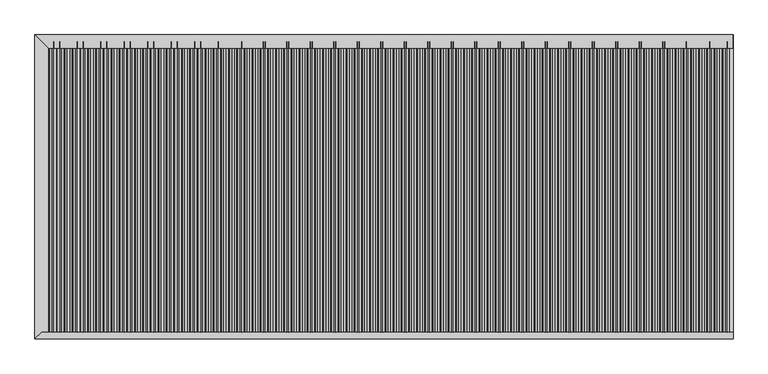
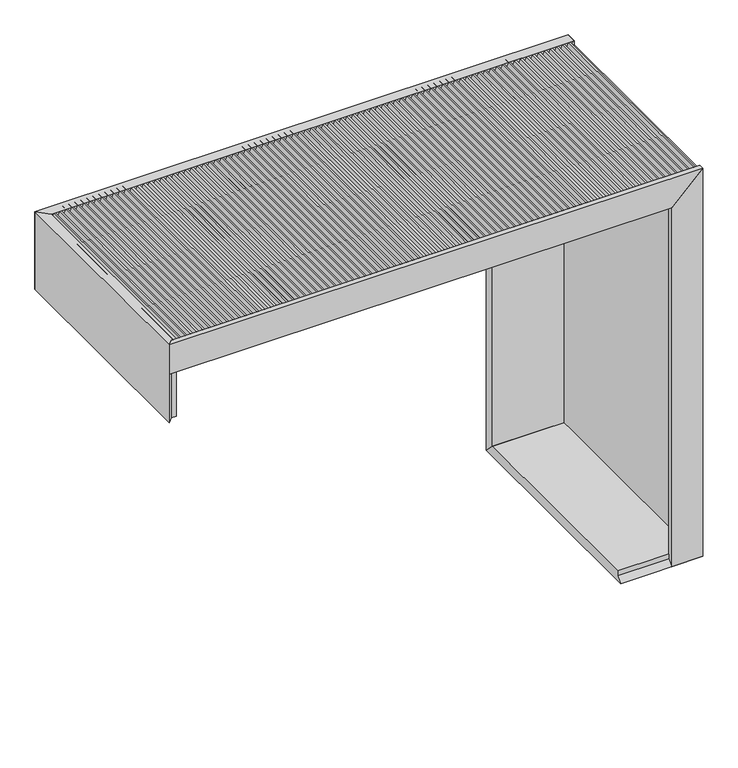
"""IFC4 building model written with IfcOpenShell, lengths in millimetres: proxy geometry, SALUTE^ADMIN 4_60x78 BATTEN L-SHAPED TRANS-SOLID ASSEMBLY."""

from ifc_helpers import new_model, si_unit, frame, origin, place, context, project, spatial, polyline, outline, extrude, faceted_brep, source, transform, mapped, element, save


def generic_models_9445e358(model_context):
    return source(origin(), model_context, "Body", "SolidModel", [
        extrude(outline(polyline([(723.9, -957.6724137), (723.9, 947.3275863), (742.95, 966.3775863), (742.95, -957.6724137), (723.9, -957.6724137)])), frame((0.0, -416.5070703, 0.0), z_axis=(0.0, 1.0, 0.0), x_axis=(0.0, 0.0, 1.0)), (0.0, 0.0, 1.0), 806.45),
        faceted_brep([(985.4275863, 389.9429297, -723.9), (985.4275863, 389.9429297, 762.0), (680.6275863, 389.9429297, 457.2), (680.6275863, 389.9429297, -723.9), (985.4275863, 428.0429297, -762.0), (985.4275863, 428.0429297, 762.0), (680.6275863, 428.0429297, 457.2), (680.6275863, 428.0429297, -762.0)], [[[0, 1, 2, 3]], [[1, 0, 4, 5]], [[2, 1, 5, 6]], [[0, 3, 7, 4]], [[7, 3, 2, 6]], [[6, 5, 4, 7]]]),
        extrude(outline(polyline([(428.0429297, -762.0), (-435.5570703, -762.0), (-416.5070703, -742.95), (-416.5070703, -723.9), (389.9429297, -723.9), (428.0429297, -762.0)])), frame((680.6275863, 0.0, 0.0), z_axis=(1.0, 0.0, 0.0), x_axis=(0.0, 1.0, 0.0)), (0.0, 0.0, 1.0), 304.8),
        faceted_brep([(871.1275863, -435.5570703, 647.7), (985.4275863, -435.5570703, 762.0), (-995.7724137, -435.5570703, 762.0), (-995.7724137, -435.5570703, 647.7), (985.4275863, -416.5070703, 762.0), (-976.7224137, -416.5070703, 762.0), (871.1275863, -416.5070703, 647.7), (-976.7224137, -416.5070703, 647.7)], [[[0, 1, 2, 3]], [[1, 4, 5, 2]], [[4, 6, 7, 5]], [[6, 0, 3, 7]], [[2, 5, 7, 3]], [[4, 1, 0, 6]]]),
        faceted_brep([(871.1275863, -435.5570703, 647.7), (985.4275863, -435.5570703, 762.0), (985.4275863, -416.5070703, 762.0), (871.1275863, -416.5070703, 647.7), (871.1275863, -416.5070703, -742.95), (871.1275863, -435.5570703, -762.0), (985.4275863, -416.5070703, -742.95), (985.4275863, -435.5570703, -762.0)], [[[0, 1, 2, 3]], [[0, 3, 4, 5]], [[3, 2, 6, 4]], [[1, 0, 5, 7]], [[7, 6, 2, 1]], [[5, 4, 6, 7]]]),
        extrude(outline(polyline([(-995.7724137, -435.5570703), (-995.7724137, 428.0429297), (-957.6724137, 389.9429297), (-957.6724137, -416.5070703), (-976.7224137, -416.5070703), (-995.7724137, -435.5570703)])), frame((0.0, 0.0, 457.2), z_axis=(0.0, 0.0, 1.0), x_axis=(1.0, 0.0, 0.0)), (0.0, 0.0, 1.0), 304.8),
        faceted_brep([(-957.6724137, 389.9429297, 762.0), (985.4275863, 389.9429297, 762.0), (985.4275863, 428.0429297, 762.0), (-995.7724137, 428.0429297, 762.0), (-957.6724137, 389.9429297, 457.2), (680.6275863, 389.9429297, 457.2), (680.6275863, 428.0429297, 457.2), (-995.7724137, 428.0429297, 457.2)], [[[0, 1, 2, 3]], [[1, 0, 4, 5]], [[2, 1, 5, 6]], [[0, 3, 7, 4]], [[4, 7, 6, 5]], [[2, 6, 7, 3]]]),
        extrude(outline(polyline([(-723.9, 966.3775863), (742.95, 966.3775863), (723.9, 947.3275863), (-723.9, 947.3275863), (-723.9, 966.3775863)])), frame((0.0, -416.5070703, 0.0), z_axis=(0.0, 1.0, 0.0), x_axis=(0.0, 0.0, 1.0)), (0.0, 0.0, 1.0), 806.45),
        extrude(outline(polyline([(751.4166667, 974.844253), (742.95, 966.3775863), (-742.95, 966.3775863), (-742.95, 985.4275863), (-736.6, 972.7275863), (-733.425, 972.7275863), (-727.075, 985.4275863), (-720.725, 985.4275863), (-714.375, 972.7275863), (-711.2, 972.7275863), (-704.85, 985.4275863), (-698.5, 985.4275863), (-692.15, 972.7275863), (-688.975, 972.7275863), (-682.625, 985.4275863), (-676.275, 985.4275863), (-669.925, 972.7275863), (-666.75, 972.7275863), (-660.4, 985.4275863), (-654.05, 985.4275863), (-647.7, 972.7275863), (-644.525, 972.7275863), (-638.175, 985.4275863), (-631.825, 985.4275863), (-625.475, 972.7275863), (-622.3, 972.7275863), (-615.95, 985.4275863), (-609.6, 985.4275863), (-603.25, 972.7275863), (-600.075, 972.7275863), (-593.725, 985.4275863), (-587.375, 985.4275863), (-581.025, 972.7275863), (-577.85, 972.7275863), (-571.5, 985.4275863), (-565.15, 985.4275863), (-558.8, 972.7275863), (-555.625, 972.7275863), (-549.275, 985.4275863), (-542.925, 985.4275863), (-536.575, 972.7275863), (-533.4, 972.7275863), (-527.05, 985.4275863), (-520.7, 985.4275863), (-514.35, 972.7275863), (-511.175, 972.7275863), (-504.825, 985.4275863), (-498.475, 985.4275863), (-492.125, 972.7275863), (-488.95, 972.7275863), (-482.6, 985.4275863), (-476.25, 985.4275863), (-469.9, 972.7275863), (-466.725, 972.7275863), (-460.375, 985.4275863), (-454.025, 985.4275863), (-447.675, 972.7275863), (-444.5, 972.7275863), (-438.15, 985.4275863), (-431.8, 985.4275863), (-425.45, 972.7275863), (-422.275, 972.7275863), (-415.925, 985.4275863), (-409.575, 985.4275863), (-403.225, 972.7275863), (-400.05, 972.7275863), (-393.7, 985.4275863), (-387.35, 985.4275863), (-381.0, 972.7275863), (-377.825, 972.7275863), (-371.475, 985.4275863), (-365.125, 985.4275863), (-358.775, 972.7275863), (-355.6, 972.7275863), (-349.25, 985.4275863), (-342.9, 985.4275863), (-336.55, 972.7275863), (-333.375, 972.7275863), (-327.025, 985.4275863), (-320.675, 985.4275863), (-314.325, 972.7275863), (-311.15, 972.7275863), (-304.8, 985.4275863), (-298.45, 985.4275863), (-292.1, 972.7275863), (-288.925, 972.7275863), (-282.575, 985.4275863), (-276.225, 985.4275863), (-269.875, 972.7275863), (-266.7, 972.7275863), (-260.35, 985.4275863), (-254.0, 985.4275863), (-247.65, 972.7275863), (-244.475, 972.7275863), (-238.125, 985.4275863), (-231.775, 985.4275863), (-225.425, 972.7275863), (-222.25, 972.7275863), (-215.9, 985.4275863), (-209.55, 985.4275863), (-203.2, 972.7275863), (-200.025, 972.7275863), (-193.675, 985.4275863), (-187.325, 985.4275863), (-180.975, 972.7275863), (-177.8, 972.7275863), (-171.45, 985.4275863), (-165.1, 985.4275863), (-158.75, 972.7275863), (-155.575, 972.7275863), (-149.225, 985.4275863), (-142.875, 985.4275863), (-136.525, 972.7275863), (-133.35, 972.7275863), (-127.0, 985.4275863), (-120.65, 985.4275863), (-114.3, 972.7275863), (-111.125, 972.7275863), (-104.775, 985.4275863), (-98.425, 985.4275863), (-92.075, 972.7275863), (-88.9, 972.7275863), (-82.55, 985.4275863), (-76.2, 985.4275863), (-69.85, 972.7275863), (-66.675, 972.7275863), (-60.325, 985.4275863), (-53.975, 985.4275863), (-47.625, 972.7275863), (-44.45, 972.7275863), (-38.1, 985.4275863), (-31.75, 985.4275863), (-25.4, 972.7275863), (-22.225, 972.7275863), (-15.875, 985.4275863), (-9.525, 985.4275863), (-3.175, 972.7275863), (0.0, 972.7275863), (6.35, 985.4275863), (12.7, 985.4275863), (19.05, 972.7275863), (22.225, 972.7275863), (28.575, 985.4275863), (34.925, 985.4275863), (41.275, 972.7275863), (44.45, 972.7275863), (50.8, 985.4275863), (57.15, 985.4275863), (63.5, 972.7275863), (66.675, 972.7275863), (73.025, 985.4275863), (79.375, 985.4275863), (85.725, 972.7275863), (88.9, 972.7275863), (95.25, 985.4275863), (101.6, 985.4275863), (107.95, 972.7275863), (111.125, 972.7275863), (117.475, 985.4275863), (123.825, 985.4275863), (130.175, 972.7275863), (133.35, 972.7275863), (139.7, 985.4275863), (146.05, 985.4275863), (152.4, 972.7275863), (155.575, 972.7275863), (161.925, 985.4275863), (168.275, 985.4275863), (174.625, 972.7275863), (177.8, 972.7275863), (184.15, 985.4275863), (190.5, 985.4275863), (196.85, 972.7275863), (200.025, 972.7275863), (206.375, 985.4275863), (212.725, 985.4275863), (219.075, 972.7275863), (222.25, 972.7275863), (228.6, 985.4275863), (234.95, 985.4275863), (241.3, 972.7275863), (244.475, 972.7275863), (250.825, 985.4275863), (257.175, 985.4275863), (263.525, 972.7275863), (266.7, 972.7275863), (273.05, 985.4275863), (279.4, 985.4275863), (285.75, 972.7275863), (288.925, 972.7275863), (295.275, 985.4275863), (301.625, 985.4275863), (307.975, 972.7275863), (311.15, 972.7275863), (317.5, 985.4275863), (323.85, 985.4275863), (330.2, 972.7275863), (333.375, 972.7275863), (339.725, 985.4275863), (346.075, 985.4275863), (352.425, 972.7275863), (355.6, 972.7275863), (361.95, 985.4275863), (368.3, 985.4275863), (374.65, 972.7275863), (377.825, 972.7275863), (384.175, 985.4275863), (390.525, 985.4275863), (396.875, 972.7275863), (400.05, 972.7275863), (406.4, 985.4275863), (412.75, 985.4275863), (419.1, 972.7275863), (422.275, 972.7275863), (428.625, 985.4275863), (434.975, 985.4275863), (441.325, 972.7275863), (444.5, 972.7275863), (450.85, 985.4275863), (457.2, 985.4275863), (463.55, 972.7275863), (466.725, 972.7275863), (473.075, 985.4275863), (479.425, 985.4275863), (485.775, 972.7275863), (488.95, 972.7275863), (495.3, 985.4275863), (501.65, 985.4275863), (508.0, 972.7275863), (511.175, 972.7275863), (517.525, 985.4275863), (523.875, 985.4275863), (530.225, 972.7275863), (533.4, 972.7275863), (539.75, 985.4275863), (546.1, 985.4275863), (552.45, 972.7275863), (555.625, 972.7275863), (561.975, 985.4275863), (568.325, 985.4275863), (574.675, 972.7275863), (577.85, 972.7275863), (584.2, 985.4275863), (590.55, 985.4275863), (596.9, 972.7275863), (600.075, 972.7275863), (606.425, 985.4275863), (612.775, 985.4275863), (619.125, 972.7275863), (622.3, 972.7275863), (628.65, 985.4275863), (635.0, 985.4275863), (641.35, 972.7275863), (644.525, 972.7275863), (650.875, 985.4275863), (657.225, 985.4275863), (663.575, 972.7275863), (666.75, 972.7275863), (673.1, 985.4275863), (679.45, 985.4275863), (685.8, 972.7275863), (688.975, 972.7275863), (695.325, 985.4275863), (701.675, 985.4275863), (708.025, 972.7275863), (711.2, 972.7275863), (717.55, 985.4275863), (723.9, 985.4275863), (730.25, 972.7275863), (733.425, 972.7275863), (739.775, 985.4275863), (746.125, 985.4275863), (751.4166667, 974.844253)])), frame((0.0, -416.5070703, 0.0), z_axis=(0.0, 1.0, 0.0), x_axis=(0.0, 0.0, 1.0)), (0.0, 0.0, 1.0), 825.5),
        extrude(outline(polyline([(742.95, 966.3775863), (751.4166667, 974.844253), (762.0, 969.5525863), (762.0, 963.2025863), (749.3, 956.8525863), (749.3, 953.6775863), (762.0, 947.3275863), (762.0, 940.9775863), (749.3, 934.6275863), (749.3, 931.4525863), (762.0, 925.1025863), (762.0, 918.7525863), (749.3, 912.4025863), (749.3, 909.2275863), (762.0, 902.8775863), (762.0, 896.5275863), (749.3, 890.1775863), (749.3, 887.0025863), (762.0, 880.6525863), (762.0, 874.3025863), (749.3, 867.9525863), (749.3, 864.7775863), (762.0, 858.4275863), (762.0, 852.0775863), (749.3, 845.7275863), (749.3, 842.5525863), (762.0, 836.2025863), (762.0, 829.8525863), (749.3, 823.5025863), (749.3, 820.3275863), (762.0, 813.9775863), (762.0, 807.6275863), (749.3, 801.2775863), (749.3, 798.1025863), (762.0, 791.7525863), (762.0, 785.4025863), (749.3, 779.0525863), (749.3, 775.8775863), (762.0, 769.5275863), (762.0, 763.1775863), (749.3, 756.8275863), (749.3, 753.6525863), (762.0, 747.3025863), (762.0, 740.9525863), (749.3, 734.6025863), (749.3, 731.4275863), (762.0, 725.0775863), (762.0, 718.7275863), (749.3, 712.3775863), (749.3, 709.2025863), (762.0, 702.8525863), (762.0, 696.5025863), (749.3, 690.1525863), (749.3, 686.9775863), (762.0, 680.6275863), (762.0, 674.2775863), (749.3, 667.9275863), (749.3, 664.7525863), (762.0, 658.4025863), (762.0, 652.0525863), (749.3, 645.7025863), (749.3, 642.5275863), (762.0, 636.1775863), (762.0, 629.8275863), (749.3, 623.4775863), (749.3, 620.3025863), (762.0, 613.9525863), (762.0, 607.6025863), (749.3, 601.2525863), (749.3, 598.0775863), (762.0, 591.7275863), (762.0, 585.3775863), (749.3, 579.0275863), (749.3, 575.8525863), (762.0, 569.5025863), (762.0, 563.1525863), (749.3, 556.8025863), (749.3, 553.6275863), (762.0, 547.2775863), (762.0, 540.9275863), (749.3, 534.5775863), (749.3, 531.4025863), (762.0, 525.0525863), (762.0, 518.7025863), (749.3, 512.3525863), (749.3, 509.1775863), (762.0, 502.8275863), (762.0, 496.4775863), (749.3, 490.1275863), (749.3, 486.9525863), (762.0, 480.6025863), (762.0, 474.2525863), (749.3, 467.9025863), (749.3, 464.7275863), (762.0, 458.3775863), (762.0, 452.0275863), (749.3, 445.6775863), (749.3, 442.5025863), (762.0, 436.1525863), (762.0, 429.8025863), (749.3, 423.4525863), (749.3, 420.2775863), (762.0, 413.9275863), (762.0, 407.5775863), (749.3, 401.2275863), (749.3, 398.0525863), (762.0, 391.7025863), (762.0, 385.3525863), (749.3, 379.0025863), (749.3, 375.8275863), (762.0, 369.4775863), (762.0, 363.1275863), (749.3, 356.7775863), (749.3, 353.6025863), (762.0, 347.2525863), (762.0, 340.9025863), (749.3, 334.5525863), (749.3, 331.3775863), (762.0, 325.0275863), (762.0, 318.6775863), (749.3, 312.3275863), (749.3, 309.1525863), (762.0, 302.8025863), (762.0, 296.4525863), (749.3, 290.1025863), (749.3, 286.9275863), (762.0, 280.5775863), (762.0, 274.2275863), (749.3, 267.8775863), (749.3, 264.7025863), (762.0, 258.3525863), (762.0, 252.0025863), (749.3, 245.6525863), (749.3, 242.4775863), (762.0, 236.1275863), (762.0, 229.7775863), (749.3, 223.4275863), (749.3, 220.2525863), (762.0, 213.9025863), (762.0, 207.5525863), (749.3, 201.2025863), (749.3, 198.0275863), (762.0, 191.6775863), (762.0, 185.3275863), (749.3, 178.9775863), (749.3, 175.8025863), (762.0, 169.4525863), (762.0, 163.1025863), (749.3, 156.7525863), (749.3, 153.5775863), (762.0, 147.2275863), (762.0, 140.8775863), (749.3, 134.5275863), (749.3, 131.3525863), (762.0, 125.0025863), (762.0, 118.6525863), (749.3, 112.3025863), (749.3, 109.1275863), (762.0, 102.7775863), (762.0, 96.4275863), (749.3, 90.0775863), (749.3, 86.9025863), (762.0, 80.5525863), (762.0, 74.2025863), (749.3, 67.8525863), (749.3, 64.6775863), (762.0, 58.3275863), (762.0, 51.9775863), (749.3, 45.6275863), (749.3, 42.4525863), (762.0, 36.1025863), (762.0, 29.7525863), (749.3, 23.4025863), (749.3, 20.2275863), (762.0, 13.8775863), (762.0, 7.5275863), (749.3, 1.1775863), (749.3, -1.9974137), (762.0, -8.3474137), (762.0, -14.6974137), (749.3, -21.0474137), (749.3, -24.2224137), (762.0, -30.5724137), (762.0, -36.9224137), (749.3, -43.2724137), (749.3, -46.4474137), (762.0, -52.7974137), (762.0, -59.1474137), (749.3, -65.4974137), (749.3, -68.6724137), (762.0, -75.0224137), (762.0, -81.3724137), (749.3, -87.7224137), (749.3, -90.8974137), (762.0, -97.2474137), (762.0, -103.5974137), (749.3, -109.9474137), (749.3, -113.1224137), (762.0, -119.4724137), (762.0, -125.8224137), (749.3, -132.1724137), (749.3, -135.3474137), (762.0, -141.6974137), (762.0, -148.0474137), (749.3, -154.3974137), (749.3, -157.5724137), (762.0, -163.9224137), (762.0, -170.2724137), (749.3, -176.6224137), (749.3, -179.7974137), (762.0, -186.1474137), (762.0, -192.4974137), (749.3, -198.8474137), (749.3, -202.0224137), (762.0, -208.3724137), (762.0, -214.7224137), (749.3, -221.0724137), (749.3, -224.2474137), (762.0, -230.5974137), (762.0, -236.9474137), (749.3, -243.2974137), (749.3, -246.4724137), (762.0, -252.8224137), (762.0, -259.1724137), (749.3, -265.5224137), (749.3, -268.6974137), (762.0, -275.0474137), (762.0, -281.3974137), (749.3, -287.7474137), (749.3, -290.9224137), (762.0, -297.2724137), (762.0, -303.6224137), (749.3, -309.9724137), (749.3, -313.1474137), (762.0, -319.4974137), (762.0, -325.8474137), (749.3, -332.1974137), (749.3, -335.3724137), (762.0, -341.7224137), (762.0, -348.0724137), (749.3, -354.4224137), (749.3, -357.5974137), (762.0, -363.9474137), (762.0, -370.2974137), (749.3, -376.6474137), (749.3, -379.8224137), (762.0, -386.1724137), (762.0, -392.5224137), (749.3, -398.8724137), (749.3, -402.0474137), (762.0, -408.3974137), (762.0, -414.7474137), (749.3, -421.0974137), (749.3, -424.2724137), (762.0, -430.6224137), (762.0, -436.9724137), (749.3, -443.3224137), (749.3, -446.4974137), (762.0, -452.8474137), (762.0, -459.1974137), (749.3, -465.5474137), (749.3, -468.7224137), (762.0, -475.0724137), (762.0, -481.4224137), (749.3, -487.7724137), (749.3, -490.9474137), (762.0, -497.2974137), (762.0, -503.6474137), (749.3, -509.9974137), (749.3, -513.1724137), (762.0, -519.5224137), (762.0, -525.8724137), (749.3, -532.2224137), (749.3, -535.3974137), (762.0, -541.7474137), (762.0, -548.0974137), (749.3, -554.4474137), (749.3, -557.6224137), (762.0, -563.9724137), (762.0, -570.3224137), (749.3, -576.6724137), (749.3, -579.8474137), (762.0, -586.1974137), (762.0, -592.5474137), (749.3, -598.8974137), (749.3, -602.0724137), (762.0, -608.4224137), (762.0, -614.7724137), (749.3, -621.1224137), (749.3, -624.2974137), (762.0, -630.6474137), (762.0, -636.9974137), (749.3, -643.3474137), (749.3, -646.5224137), (762.0, -652.8724137), (762.0, -659.2224137), (749.3, -665.5724137), (749.3, -668.7474137), (762.0, -675.0974137), (762.0, -681.4474137), (749.3, -687.7974137), (749.3, -690.9724137), (762.0, -697.3224137), (762.0, -703.6724137), (749.3, -710.0224137), (749.3, -713.1974137), (762.0, -719.5474137), (762.0, -725.8974137), (749.3, -732.2474137), (749.3, -735.4224137), (762.0, -741.7724137), (762.0, -748.1224137), (749.3, -754.4724137), (749.3, -757.6474137), (762.0, -763.9974137), (762.0, -770.3474137), (749.3, -776.6974137), (749.3, -779.8724137), (762.0, -786.2224137), (762.0, -792.5724137), (749.3, -798.9224137), (749.3, -802.0974137), (762.0, -808.4474137), (762.0, -814.7974137), (749.3, -821.1474137), (749.3, -824.3224137), (762.0, -830.6724137), (762.0, -837.0224137), (749.3, -843.3724137), (749.3, -846.5474137), (762.0, -852.8974137), (762.0, -859.2474137), (749.3, -865.5974137), (749.3, -868.7724137), (762.0, -875.1224137), (762.0, -881.4724137), (749.3, -887.8224137), (749.3, -890.9974137), (762.0, -897.3474137), (762.0, -903.6974137), (749.3, -910.0474137), (749.3, -913.2224137), (762.0, -919.5724137), (762.0, -925.9224137), (749.3, -932.2724137), (749.3, -935.4474137), (762.0, -941.7974137), (762.0, -948.1474137), (749.3, -954.4974137), (749.3, -957.6724137), (762.0, -964.0224137), (762.0, -970.3724137), (749.3, -976.7224137), (742.95, -976.7224137), (742.95, 966.3775863)])), frame((0.0, -416.5070703, 0.0), z_axis=(0.0, 1.0, 0.0), x_axis=(0.0, 0.0, 1.0)), (0.0, 0.0, 1.0), 825.5),
    ])


if __name__ == "__main__":
    model = new_model("IFC4")
    model_context = context("Model", 3, world=origin())
    ifc_project = project(units=[si_unit("LENGTHUNIT", "METRE", prefix="MILLI")], contexts=[model_context])
    site = spatial("IfcSite", under=ifc_project)
    building = spatial("IfcBuilding", under=site)
    placement = place(None, origin())
    generic_models_shape = generic_models_9445e358(model_context)
    element("IfcBuildingElementProxy", 1, Name="SALUTE^ADMIN 4_60x78 BATTEN L-SHAPED TRANS-SOLID ASSEMBLY", ObjectType="SALUTE^ADMIN 4_60x78 BATTEN L-SHAPED TRANS-SOLID ASSEMBLY", at=placement, inside=building, context=model_context, shape_type="MappedRepresentation", body=[
        mapped(generic_models_shape, transform((0.0, 0.0, 0.0), x_axis=(1.0, 0.0, 0.0), y_axis=(0.0, 1.0, 0.0), z_axis=(0.0, 0.0, 1.0))),
    ])
    save(model, "model.ifc")
